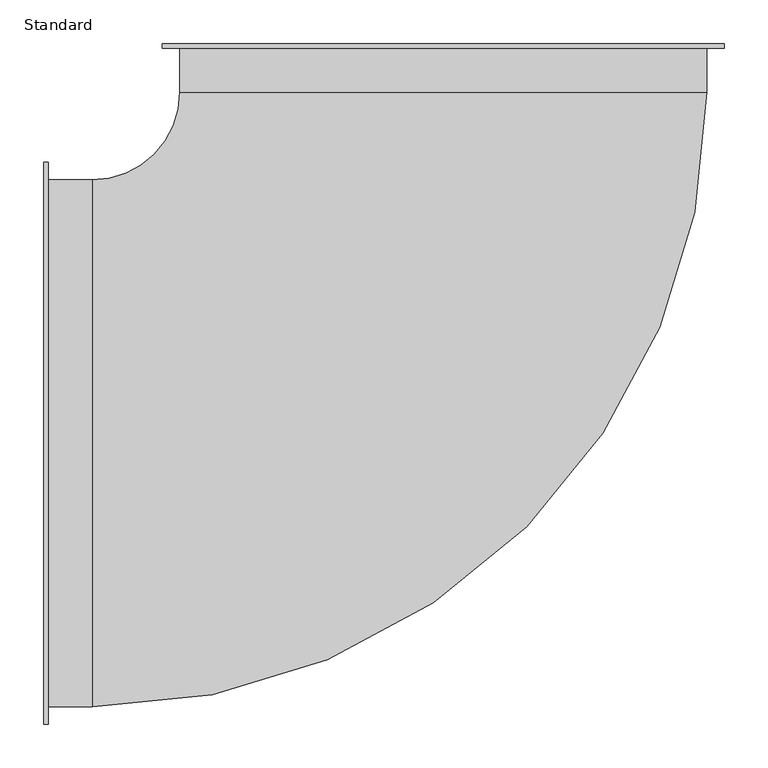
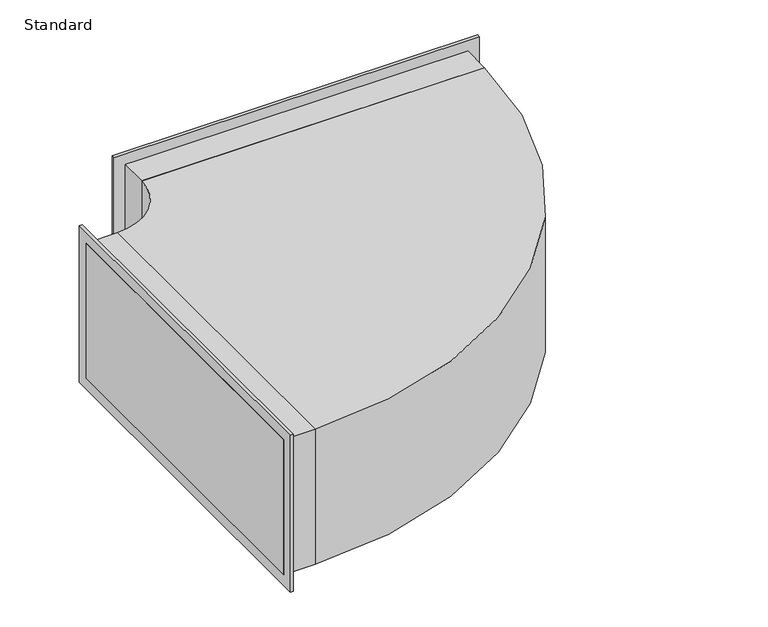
"""IFC4 building model written with IfcOpenShell, lengths in millimetres: duct fitting geometry, Bogen rechteck BS : Standard."""

import ifcopenshell
import ifcopenshell.guid

model = None  # the IFC model being written
_history = None  # IfcOwnerHistory: only IFC2X3 demands one
_inside = {}  # id of a spatial element -> (the spatial element, [elements in it])
_under = {}  # id of a project, library or spatial element -> (it, [spatial elements below it])
_declared = {}  # id of a project -> (the project, [libraries it declares])
_typed = {}  # id of a type object -> (the type object, [elements of that type])
_made_of = {}  # id of a material, layer set ... -> (it, [elements and type objects made of it])


def new_model(schema):
    """Start an empty IFC model of exactly this schema.

    Asked for "IFC4X3", IfcOpenShell would pick the latest addendum, in which some entities
    have other attributes; the version numbers below select the first issue.
    IFC2X3 requires an IfcOwnerHistory on every rooted entity: one is made here for all.
    """
    global model, _history
    if schema == "IFC4X3":
        model = ifcopenshell.file(schema_version=(4, 3, 0, 0))
    else:
        model = ifcopenshell.file(schema=schema)
    _inside.clear()
    _under.clear()
    _declared.clear()
    _typed.clear()
    _made_of.clear()
    _history = None
    if model.schema == "IFC2X3":
        org = make("IfcOrganization", Name="unknown")
        user = make(
            "IfcPersonAndOrganization",
            ThePerson=make("IfcPerson", FamilyName="unknown"),
            TheOrganization=org,
        )
        app = make(
            "IfcApplication",
            ApplicationDeveloper=org,
            Version="unknown",
            ApplicationFullName="unknown",
            ApplicationIdentifier="unknown",
        )
        _history = make(
            "IfcOwnerHistory",
            OwningUser=user,
            OwningApplication=app,
            ChangeAction="ADDED",
            CreationDate=0,
        )
    return model


def make(cls, **values):
    """One entity of the class cls with the attributes given. An attribute that is None is left unset."""
    return model.create_entity(
        cls, **{name: value for name, value in values.items() if value is not None}
    )


def rooted(cls, **values):
    """An entity with a GlobalId (a new one), such as an element, a storey or a relation."""
    return make(cls, GlobalId=ifcopenshell.guid.new(), OwnerHistory=_history, **values)


def si_unit(unit_type, name, prefix=None):
    """IfcSIUnit, for example si_unit("LENGTHUNIT", "METRE", prefix="MILLI")."""
    return make("IfcSIUnit", UnitType=unit_type, Prefix=prefix, Name=name)


def assignment(units):
    """IfcUnitAssignment: the units of a project."""
    return None if units is None else make("IfcUnitAssignment", Units=units)


def point(xyz):
    """IfcCartesianPoint."""
    return None if xyz is None else make("IfcCartesianPoint", Coordinates=xyz)


def direction(xyz):
    """IfcDirection."""
    return None if xyz is None else make("IfcDirection", DirectionRatios=xyz)


def frame(location, z_axis=None, x_axis=None):
    """IfcAxis2Placement3D, a coordinate frame: its origin and axes. An axis left out is left unset."""
    return make(
        "IfcAxis2Placement3D",
        Location=point(location),
        Axis=direction(z_axis),
        RefDirection=direction(x_axis),
    )


def frame_2d(location, x_axis=None):
    """IfcAxis2Placement2D, a coordinate frame in the plane: its origin and x axis."""
    return make(
        "IfcAxis2Placement2D", Location=point(location), RefDirection=direction(x_axis)
    )


def origin():
    """The frame at (0, 0, 0) with its axes left unset."""
    return frame((0.0, 0.0, 0.0))


def place(relative_to, where):
    """IfcLocalPlacement: puts the frame where relative to a parent placement (None: the world)."""
    return make(
        "IfcLocalPlacement", PlacementRelTo=relative_to, RelativePlacement=where
    )


def context(
    kind, dimensions, precision=None, world=None, true_north=None, identifier=None
):
    """IfcGeometricRepresentationContext, for example the 3D "Model" context."""
    return make(
        "IfcGeometricRepresentationContext",
        ContextIdentifier=identifier,
        ContextType=kind,
        CoordinateSpaceDimension=dimensions,
        Precision=precision,
        WorldCoordinateSystem=world,
        TrueNorth=true_north,
    )


def project(units=None, contexts=None):
    """IfcProject with its units and contexts."""
    return rooted(
        "IfcProject",
        Name="project",
        RepresentationContexts=contexts,
        UnitsInContext=assignment(units),
    )


def spatial(cls, under=None, at=None, **own):
    """A site, building, storey or space (cls), placed at a placement, below another one or the project."""
    s = rooted(cls, ObjectPlacement=at, **own)
    if under is not None:
        _under.setdefault(under.id(), (under, []))[1].append(s)
    return s


def polyline(points):
    """IfcPolyline through the points."""
    return make("IfcPolyline", Points=[point(p) for p in points])


def circle_curve(where, radius):
    """IfcCircle in the frame where."""
    return make("IfcCircle", Position=where, Radius=radius)


def trimmed(basis, trim1, trim2, sense, master):
    """IfcTrimmedCurve: the piece of a basis curve between two trims."""
    return make(
        "IfcTrimmedCurve",
        BasisCurve=basis,
        Trim1=trim1,
        Trim2=trim2,
        SenseAgreement=sense,
        MasterRepresentation=master,
    )


def segment(curve, same_sense, transition):
    """IfcCompositeCurveSegment."""
    return make(
        "IfcCompositeCurveSegment",
        Transition=transition,
        SameSense=same_sense,
        ParentCurve=curve,
    )


def composite_curve(segments, self_intersect=None):
    """IfcCompositeCurve: segments joined end to end."""
    return make("IfcCompositeCurve", Segments=segments, SelfIntersect=self_intersect)


def outline(outer, holes=None, kind="AREA"):
    """IfcArbitraryClosedProfileDef: a profile drawn as a closed curve; with holes, ...WithVoids."""
    if holes is None:
        return make("IfcArbitraryClosedProfileDef", ProfileType=kind, OuterCurve=outer)
    return make(
        "IfcArbitraryProfileDefWithVoids",
        ProfileType=kind,
        OuterCurve=outer,
        InnerCurves=holes,
    )


def extrude(swept, where, along, depth):
    """IfcExtrudedAreaSolid: the profile swept, set in the frame where, extruded along a direction by depth."""
    return make(
        "IfcExtrudedAreaSolid",
        SweptArea=swept,
        Position=where,
        ExtrudedDirection=direction(along),
        Depth=depth,
    )


def shape(context_of_items, identifier, shape_type, items):
    """IfcShapeRepresentation: the items that make up one representation, for example the "Body"."""
    return make(
        "IfcShapeRepresentation",
        ContextOfItems=context_of_items,
        RepresentationIdentifier=identifier,
        RepresentationType=shape_type,
        Items=items,
    )


def source(mapping_origin, context_of_items, identifier, shape_type, items):
    """IfcRepresentationMap: a shape defined once, which mapped items show again and again."""
    return make(
        "IfcRepresentationMap",
        MappingOrigin=mapping_origin,
        MappedRepresentation=shape(context_of_items, identifier, shape_type, items),
    )


def transform(
    local_origin,
    x_axis=None,
    y_axis=None,
    z_axis=None,
    scale=None,
    scale2=None,
    scale3=None,
    uniform=True,
):
    """IfcCartesianTransformationOperator3D, or its non-uniform kind. x_axis, y_axis, z_axis: its Axis1, 2, 3."""
    if uniform:
        return make(
            "IfcCartesianTransformationOperator3D",
            Axis1=direction(x_axis),
            Axis2=direction(y_axis),
            LocalOrigin=point(local_origin),
            Scale=scale,
            Axis3=direction(z_axis),
        )
    return make(
        "IfcCartesianTransformationOperator3DnonUniform",
        Axis1=direction(x_axis),
        Axis2=direction(y_axis),
        LocalOrigin=point(local_origin),
        Scale=scale,
        Axis3=direction(z_axis),
        Scale2=scale2,
        Scale3=scale3,
    )


def mapped(mapping_source, mapping_target):
    """IfcMappedItem: shows the shape of a source again, moved by a transform."""
    return make(
        "IfcMappedItem", MappingSource=mapping_source, MappingTarget=mapping_target
    )


def made_of(thing, what):
    """Note that an element or type object is made of a material, layer set ...; save() writes the relation."""
    if what is not None:
        _made_of.setdefault(what.id(), (what, []))[1].append(thing)
    return thing


def element(
    cls,
    number,
    at=None,
    inside=None,
    cuts=None,
    type_object=None,
    material=None,
    context=None,
    identifier="Body",
    shape_type=None,
    held_by="IfcProductDefinitionShape",
    body=None,
    shapes=None,
    **own,
):
    """One element of the class cls, such as IfcWall. Its Tag is "e" and its number.

    at: its placement. inside: the storey or other place that contains it. cuts: it is an
    opening in that element (IfcRelVoidsElement). A single representation is given by context,
    identifier, shape_type and body (its items); several are given by shapes. held_by: the class
    of the entity that holds the representations. save() writes the other relations.
    """
    e = rooted(cls, Tag="e%d" % number, ObjectPlacement=at, **own)
    if body is not None:
        shapes = [shape(context, identifier, shape_type, body)]
    if shapes is not None:
        e.Representation = make(held_by, Representations=shapes)
    if inside is not None:
        _inside.setdefault(inside.id(), (inside, []))[1].append(e)
    if cuts is not None:
        rooted(
            "IfcRelVoidsElement", RelatingBuildingElement=cuts, RelatedOpeningElement=e
        )
    if type_object is not None:
        _typed.setdefault(type_object.id(), (type_object, []))[1].append(e)
    return made_of(e, material)


def aggregate(whole, parts):
    """IfcRelAggregates: a whole, such as a stair, and the parts it consists of."""
    return rooted("IfcRelAggregates", RelatingObject=whole, RelatedObjects=parts)


def save(model, path):
    """Write the relations noted so far, then the file.

    IfcRelAggregates (storeys below a building ...), IfcRelContainedInSpatialStructure (elements
    in a storey), IfcRelDefinesByType, IfcRelAssociatesMaterial and IfcRelDeclares: one each for
    every whole, place, type object, material and project.
    """
    for whole, parts in _under.values():
        aggregate(whole, parts)
    for where, things in _inside.values():
        rooted(
            "IfcRelContainedInSpatialStructure",
            RelatedElements=things,
            RelatingStructure=where,
        )
    for kind, things in _typed.values():
        rooted("IfcRelDefinesByType", RelatedObjects=things, RelatingType=kind)
    for what, things in _made_of.values():
        rooted("IfcRelAssociatesMaterial", RelatedObjects=things, RelatingMaterial=what)
    for by, libraries in _declared.values():
        rooted("IfcRelDeclares", RelatingContext=by, RelatedDefinitions=libraries)
    model.write(path)


def standard_865bd023(model_context):
    return source(origin(), model_context, "Body", "SweptSolid", [
        extrude(outline(polyline([(300.0, 400.0), (-300.0, 400.0), (-300.0, 455.0), (300.0, 455.0), (300.0, 400.0)])), frame((0.0, 0.0, -125.0), z_axis=(0.0, 0.0, 1.0), x_axis=(1.0, 0.0, 0.0)), (0.0, 0.0, 1.0), 250.0),
        extrude(outline(polyline([(-455.0, 300.0), (-400.0, 300.0), (-400.0, -300.0), (-455.0, -300.0), (-455.0, 300.0)])), frame((0.0, 0.0, -125.0), z_axis=(0.0, 0.0, 1.0), x_axis=(1.0, 0.0, 0.0)), (0.0, 0.0, 1.0), 250.0),
        extrude(outline(composite_curve([segment(trimmed(circle_curve(frame_2d((-400.0, 400.0)), 700.0), [point((300.0, 400.0))], [point((-400.0, -300.0))], False, "CARTESIAN"), True, "CONTINUOUS"), segment(polyline([(-400.0, -300.0), (-400.0, 300.0)]), True, "CONTINUOUS"), segment(trimmed(circle_curve(frame_2d((-400.0, 400.0)), 100.0), [point((-400.0, 300.0))], [point((-300.0, 400.0))], True, "CARTESIAN"), True, "CONTINUOUS"), segment(polyline([(-300.0, 400.0), (300.0, 400.0)]), True, "CONTINUOUS")], self_intersect=False)), frame((0.0, 0.0, -125.0), z_axis=(0.0, 0.0, 1.0), x_axis=(1.0, 0.0, 0.0)), (0.0, 0.0, 1.0), 250.0),
        extrude(outline(polyline([(-455.0, -320.0), (-455.0, 320.0), (-450.0, 320.0), (-450.0, -320.0), (-455.0, -320.0)])), frame((0.0, 0.0, -145.0), z_axis=(0.0, 0.0, 1.0), x_axis=(1.0, 0.0, 0.0)), (0.0, 0.0, 1.0), 290.0),
        extrude(outline(polyline([(320.0, 450.0), (-320.0, 450.0), (-320.0, 455.0), (320.0, 455.0), (320.0, 450.0)])), frame((0.0, 0.0, -145.0), z_axis=(0.0, 0.0, 1.0), x_axis=(1.0, 0.0, 0.0)), (0.0, 0.0, 1.0), 290.0),
    ])


if __name__ == "__main__":
    model = new_model("IFC4")
    model_context = context("Model", 3, world=origin())
    ifc_project = project(units=[si_unit("LENGTHUNIT", "METRE", prefix="MILLI")], contexts=[model_context])
    site = spatial("IfcSite", under=ifc_project)
    building = spatial("IfcBuilding", under=site)
    placement = place(None, origin())
    standard_shape = standard_865bd023(model_context)
    element("IfcDuctFitting", 1, ObjectType="Bogen rechteck BS : Standard", at=placement, inside=building, context=model_context, shape_type="MappedRepresentation", body=[
        mapped(standard_shape, transform((0.0, 0.0, 0.0), x_axis=(1.0, 0.0, 0.0), y_axis=(0.0, 1.0, 0.0), z_axis=(0.0, 0.0, 1.0))),
    ])
    save(model, "model.ifc")
